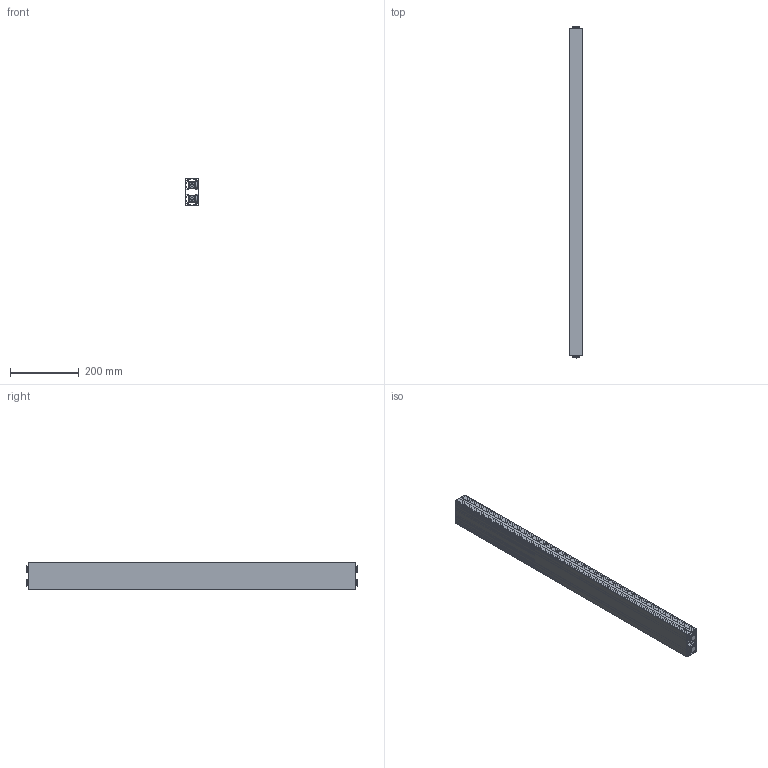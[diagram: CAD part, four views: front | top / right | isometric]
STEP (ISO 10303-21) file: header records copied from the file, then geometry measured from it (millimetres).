
FILE_DESCRIPTION(/* description */ ('Unknown'),/* implementation_level */ '2;1');
FILE_NAME(/* name */ '115.00092_01',/* time_stamp */ '2022-02-11T08:28:46+01:00',/* author */ ('Unknown'),/* organization */ ('Unknown'),/* preprocessor_version */ 'ST-DEVELOPER v18.1',/* originating_system */ 'Solid Edge',/* authorisation */ 'Unknown');
FILE_SCHEMA (('AUTOMOTIVE_DESIGN {1 0 10303 214 3 1 1}'));
Length unit declared in the file: millimetre
Products named in the file (3): 115.00092; 119.00172; 142.00207
Assembly tree (5 placements, depth 2):
  115.00092
    119.00172
    142.00207  x4
Bounding box: 40 x 962.4 x 80 mm (x, y, z)
Volume: 1007733.3 mm3; surface area: 966197.5 mm2
Topology: 9 solids, 9 shells, 992 faces, 2894 edges, 1920 vertices
Faces by surface type: cylinder 598, plane 374, cone 20
Full cylindrical faces by diameter (mm): 7.8 x4, 11.3 x4, 11.5 x4, 12 x4, 12.2 x4, 13.5 x4, 18 x8, 18.1 x8
Entity records: 31978 total; most frequent: CARTESIAN_POINT 7710, ORIENTED_EDGE 5412, DIRECTION 4768, EDGE_CURVE 2706, VERTEX_POINT 1813, AXIS2_PLACEMENT_3D 1774, LINE 1220, VECTOR 1220
